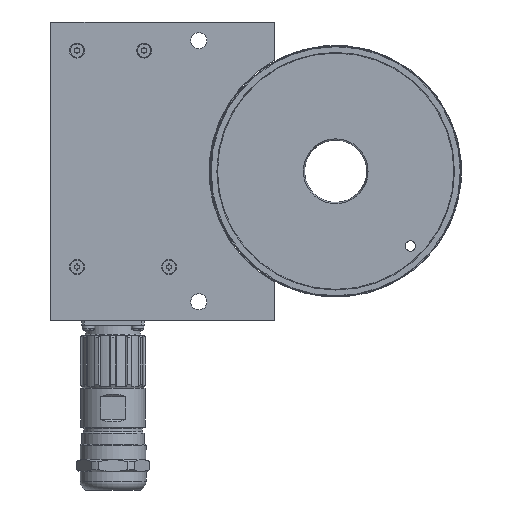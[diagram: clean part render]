
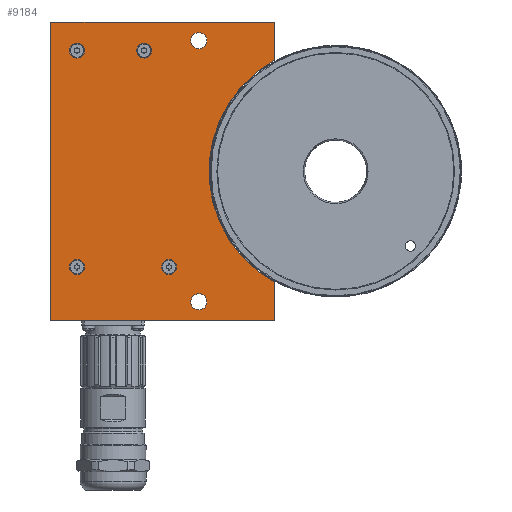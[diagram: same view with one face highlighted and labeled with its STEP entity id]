
A CAD part, left-side view. The second image highlights one B-rep face of the part: STEP entity #9184.
In plain terms, the highlighted planar face has unit normal (-1, 0, 0).
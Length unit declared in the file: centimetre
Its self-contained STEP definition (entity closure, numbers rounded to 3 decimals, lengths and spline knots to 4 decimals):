
#327=LINE('',#15974,#750);
#328=LINE('',#15976,#751);
#329=LINE('',#15978,#752);
#330=LINE('',#15980,#753);
#331=LINE('',#15983,#754);
#750=VECTOR('',#12328,9.);
#751=VECTOR('',#12329,12.);
#752=VECTOR('',#12330,9.);
#753=VECTOR('',#12331,1.535);
#754=VECTOR('',#12334,1.535);
#1182=PLANE('',#10147);
#1396=FACE_BOUND('',#2588,.T.);
#1397=FACE_BOUND('',#2589,.T.);
#1398=FACE_BOUND('',#2590,.T.);
#1399=FACE_BOUND('',#2591,.T.);
#1400=FACE_BOUND('',#2592,.T.);
#1401=FACE_BOUND('',#2593,.T.);
#1845=FACE_OUTER_BOUND('',#2587,.T.);
#2587=EDGE_LOOP('',(#7201,#7202,#7203,#7204,#7205,#7206));
#2588=EDGE_LOOP('',(#7207));
#2589=EDGE_LOOP('',(#7208));
#2590=EDGE_LOOP('',(#7209));
#2591=EDGE_LOOP('',(#7210));
#2592=EDGE_LOOP('',(#7211));
#2593=EDGE_LOOP('',(#7212));
#3429=CIRCLE('',#10148,5.093);
#3430=CIRCLE('',#10149,0.3);
#3431=CIRCLE('',#10150,0.3);
#3432=CIRCLE('',#10151,0.3);
#3433=CIRCLE('',#10152,0.3);
#3434=CIRCLE('',#10153,0.325);
#3435=CIRCLE('',#10154,0.325);
#4293=VERTEX_POINT('',#15972);
#4294=VERTEX_POINT('',#15973);
#4295=VERTEX_POINT('',#15975);
#4296=VERTEX_POINT('',#15977);
#4297=VERTEX_POINT('',#15979);
#4298=VERTEX_POINT('',#15981);
#4299=VERTEX_POINT('',#15984);
#4300=VERTEX_POINT('',#15986);
#4301=VERTEX_POINT('',#15988);
#4302=VERTEX_POINT('',#15990);
#4303=VERTEX_POINT('',#15992);
#4304=VERTEX_POINT('',#15994);
#5379=EDGE_CURVE('',#4293,#4294,#327,.T.);
#5380=EDGE_CURVE('',#4295,#4293,#328,.T.);
#5381=EDGE_CURVE('',#4296,#4295,#329,.T.);
#5382=EDGE_CURVE('',#4297,#4296,#330,.T.);
#5383=EDGE_CURVE('',#4298,#4297,#3429,.T.);
#5384=EDGE_CURVE('',#4294,#4298,#331,.T.);
#5385=EDGE_CURVE('',#4299,#4299,#3430,.T.);
#5386=EDGE_CURVE('',#4300,#4300,#3431,.T.);
#5387=EDGE_CURVE('',#4301,#4301,#3432,.T.);
#5388=EDGE_CURVE('',#4302,#4302,#3433,.T.);
#5389=EDGE_CURVE('',#4303,#4303,#3434,.T.);
#5390=EDGE_CURVE('',#4304,#4304,#3435,.T.);
#7201=ORIENTED_EDGE('',*,*,#5379,.F.);
#7202=ORIENTED_EDGE('',*,*,#5380,.F.);
#7203=ORIENTED_EDGE('',*,*,#5381,.F.);
#7204=ORIENTED_EDGE('',*,*,#5382,.F.);
#7205=ORIENTED_EDGE('',*,*,#5383,.F.);
#7206=ORIENTED_EDGE('',*,*,#5384,.F.);
#7207=ORIENTED_EDGE('',*,*,#5385,.T.);
#7208=ORIENTED_EDGE('',*,*,#5386,.T.);
#7209=ORIENTED_EDGE('',*,*,#5387,.T.);
#7210=ORIENTED_EDGE('',*,*,#5388,.T.);
#7211=ORIENTED_EDGE('',*,*,#5389,.T.);
#7212=ORIENTED_EDGE('',*,*,#5390,.T.);
#9184=ADVANCED_FACE('',(#1845,#1396,#1397,#1398,#1399,#1400,#1401),#1182,
 .F.);
#10147=AXIS2_PLACEMENT_3D('',#15971,#12326,#12327);
#10148=AXIS2_PLACEMENT_3D('',#15982,#12332,#12333);
#10149=AXIS2_PLACEMENT_3D('',#15985,#12335,#12336);
#10150=AXIS2_PLACEMENT_3D('',#15987,#12337,#12338);
#10151=AXIS2_PLACEMENT_3D('',#15989,#12339,#12340);
#10152=AXIS2_PLACEMENT_3D('',#15991,#12341,#12342);
#10153=AXIS2_PLACEMENT_3D('',#15993,#12343,#12344);
#10154=AXIS2_PLACEMENT_3D('',#15995,#12345,#12346);
#12326=DIRECTION('center_axis',(1.,0.,0.));
#12327=DIRECTION('ref_axis',(0.,0.,1.));
#12328=DIRECTION('',(0.,-1.,0.));
#12329=DIRECTION('',(0.,0.,1.));
#12330=DIRECTION('',(0.,1.,0.));
#12331=DIRECTION('',(0.,0.,-1.));
#12332=DIRECTION('center_axis',(-1.,0.,0.));
#12333=DIRECTION('ref_axis',(0.,-0.481,0.877));
#12334=DIRECTION('',(0.,0.,-1.));
#12335=DIRECTION('center_axis',(1.,0.,0.));
#12336=DIRECTION('ref_axis',(0.,0.,-1.));
#12337=DIRECTION('center_axis',(1.,0.,0.));
#12338=DIRECTION('ref_axis',(0.,0.,-1.));
#12339=DIRECTION('center_axis',(1.,0.,0.));
#12340=DIRECTION('ref_axis',(0.,0.,-1.));
#12341=DIRECTION('center_axis',(1.,0.,0.));
#12342=DIRECTION('ref_axis',(0.,0.,-1.));
#12343=DIRECTION('center_axis',(1.,0.,0.));
#12344=DIRECTION('ref_axis',(0.,0.,1.));
#12345=DIRECTION('center_axis',(1.,0.,0.));
#12346=DIRECTION('ref_axis',(0.,0.,1.));
#15971=CARTESIAN_POINT('Origin',(-0.27,7.1348,0.));
#15972=CARTESIAN_POINT('',(-0.27,11.45,6.));
#15973=CARTESIAN_POINT('',(-0.27,2.45,6.));
#15974=CARTESIAN_POINT('',(-0.27,11.45,6.));
#15975=CARTESIAN_POINT('',(-0.27,11.45,-6.));
#15976=CARTESIAN_POINT('',(-0.27,11.45,-6.));
#15977=CARTESIAN_POINT('',(-0.27,2.45,-6.));
#15978=CARTESIAN_POINT('',(-0.27,2.45,-6.));
#15979=CARTESIAN_POINT('',(-0.27,2.45,-4.465));
#15980=CARTESIAN_POINT('',(-0.27,2.45,-4.465));
#15981=CARTESIAN_POINT('',(-0.27,2.45,4.465));
#15982=CARTESIAN_POINT('Origin',(-0.27,0.,0.));
#15983=CARTESIAN_POINT('',(-0.27,2.45,6.));
#15984=CARTESIAN_POINT('',(-0.27,10.4,-4.15));
#15985=CARTESIAN_POINT('Origin',(-0.27,10.4,-3.85));
#15986=CARTESIAN_POINT('',(-0.27,7.7,4.55));
#15987=CARTESIAN_POINT('Origin',(-0.27,7.7,4.85));
#15988=CARTESIAN_POINT('',(-0.27,10.4,4.55));
#15989=CARTESIAN_POINT('Origin',(-0.27,10.4,4.85));
#15990=CARTESIAN_POINT('',(-0.27,6.7,-4.15));
#15991=CARTESIAN_POINT('Origin',(-0.27,6.7,-3.85));
#15992=CARTESIAN_POINT('',(-0.27,5.5,-5.575));
#15993=CARTESIAN_POINT('Origin',(-0.27,5.5,-5.25));
#15994=CARTESIAN_POINT('',(-0.27,5.5,4.925));
#15995=CARTESIAN_POINT('Origin',(-0.27,5.5,5.25));
